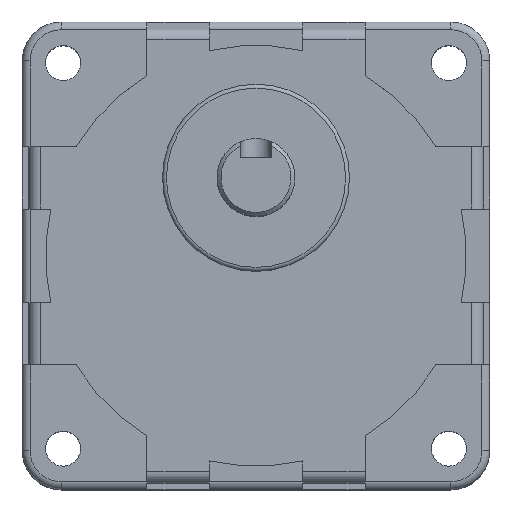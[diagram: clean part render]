
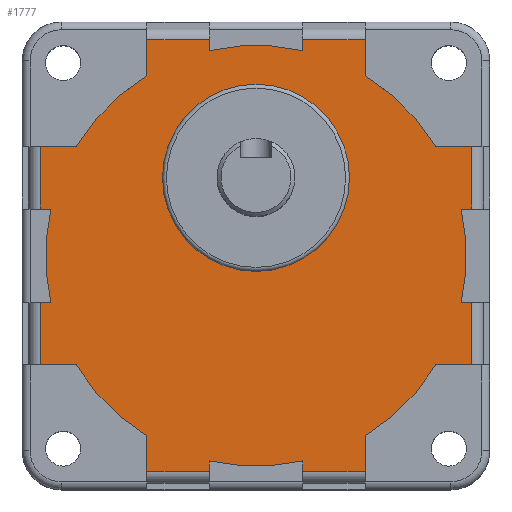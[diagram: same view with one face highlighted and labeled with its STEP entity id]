
A CAD part, top view. The second image highlights one B-rep face of the part: STEP entity #1777.
In plain terms, the highlighted planar face has unit normal (0, 0, 1).
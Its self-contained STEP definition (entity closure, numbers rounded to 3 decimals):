
#29=LINE('',#2660,#201);
#33=LINE('',#2672,#205);
#35=LINE('',#2678,#207);
#36=LINE('',#2682,#208);
#37=LINE('',#2684,#209);
#38=LINE('',#2686,#210);
#39=LINE('',#2690,#211);
#40=LINE('',#2692,#212);
#41=LINE('',#2694,#213);
#42=LINE('',#2698,#214);
#43=LINE('',#2700,#215);
#44=LINE('',#2702,#216);
#45=LINE('',#2706,#217);
#46=LINE('',#2708,#218);
#47=LINE('',#2710,#219);
#48=LINE('',#2714,#220);
#49=LINE('',#2716,#221);
#50=LINE('',#2718,#222);
#51=LINE('',#2722,#223);
#52=LINE('',#2724,#224);
#53=LINE('',#2726,#225);
#54=LINE('',#2729,#226);
#55=LINE('',#2731,#227);
#56=LINE('',#2734,#228);
#201=VECTOR('',#2113,8.);
#205=VECTOR('',#2123,8.);
#207=VECTOR('',#2129,4.613);
#208=VECTOR('',#2132,4.613);
#209=VECTOR('',#2133,8.);
#210=VECTOR('',#2134,1.375);
#211=VECTOR('',#2137,1.375);
#212=VECTOR('',#2138,8.);
#213=VECTOR('',#2139,4.613);
#214=VECTOR('',#2142,4.613);
#215=VECTOR('',#2143,8.);
#216=VECTOR('',#2144,1.375);
#217=VECTOR('',#2147,1.375);
#218=VECTOR('',#2148,8.);
#219=VECTOR('',#2149,4.613);
#220=VECTOR('',#2152,4.613);
#221=VECTOR('',#2153,8.);
#222=VECTOR('',#2154,1.375);
#223=VECTOR('',#2157,1.375);
#224=VECTOR('',#2158,8.);
#225=VECTOR('',#2159,4.613);
#226=VECTOR('',#2162,4.613);
#227=VECTOR('',#2163,1.375);
#228=VECTOR('',#2166,1.375);
#412=PLANE('',#1898);
#471=FACE_BOUND('',#606,.T.);
#494=FACE_OUTER_BOUND('',#605,.T.);
#605=EDGE_LOOP('',(#1274,#1275,#1276,#1277,#1278,#1279,#1280,#1281,#1282,
#1283,#1284,#1285,#1286,#1287,#1288,#1289,#1290,#1291,#1292,#1293,#1294,
#1295,#1296,#1297,#1298,#1299,#1300,#1301,#1302,#1303,#1304,#1305));
#606=EDGE_LOOP('',(#1306));
#727=CIRCLE('',#1899,27.);
#728=CIRCLE('',#1900,27.);
#729=CIRCLE('',#1901,27.);
#730=CIRCLE('',#1902,27.);
#731=CIRCLE('',#1903,27.);
#732=CIRCLE('',#1904,27.);
#733=CIRCLE('',#1905,27.);
#734=CIRCLE('',#1906,27.);
#735=CIRCLE('',#1907,12.);
#814=VERTEX_POINT('',#2653);
#817=VERTEX_POINT('',#2658);
#821=VERTEX_POINT('',#2669);
#822=VERTEX_POINT('',#2671);
#824=VERTEX_POINT('',#2677);
#825=VERTEX_POINT('',#2679);
#826=VERTEX_POINT('',#2681);
#827=VERTEX_POINT('',#2683);
#828=VERTEX_POINT('',#2685);
#829=VERTEX_POINT('',#2687);
#830=VERTEX_POINT('',#2689);
#831=VERTEX_POINT('',#2691);
#832=VERTEX_POINT('',#2693);
#833=VERTEX_POINT('',#2695);
#834=VERTEX_POINT('',#2697);
#835=VERTEX_POINT('',#2699);
#836=VERTEX_POINT('',#2701);
#837=VERTEX_POINT('',#2703);
#838=VERTEX_POINT('',#2705);
#839=VERTEX_POINT('',#2707);
#840=VERTEX_POINT('',#2709);
#841=VERTEX_POINT('',#2711);
#842=VERTEX_POINT('',#2713);
#843=VERTEX_POINT('',#2715);
#844=VERTEX_POINT('',#2717);
#845=VERTEX_POINT('',#2719);
#846=VERTEX_POINT('',#2721);
#847=VERTEX_POINT('',#2723);
#848=VERTEX_POINT('',#2725);
#849=VERTEX_POINT('',#2727);
#850=VERTEX_POINT('',#2730);
#851=VERTEX_POINT('',#2732);
#852=VERTEX_POINT('',#2735);
#996=EDGE_CURVE('',#817,#814,#29,.T.);
#1001=EDGE_CURVE('',#821,#822,#33,.T.);
#1004=EDGE_CURVE('',#817,#824,#35,.T.);
#1005=EDGE_CURVE('',#825,#824,#727,.T.);
#1006=EDGE_CURVE('',#826,#825,#36,.T.);
#1007=EDGE_CURVE('',#827,#826,#37,.T.);
#1008=EDGE_CURVE('',#828,#827,#38,.T.);
#1009=EDGE_CURVE('',#829,#828,#728,.T.);
#1010=EDGE_CURVE('',#829,#830,#39,.T.);
#1011=EDGE_CURVE('',#831,#830,#40,.T.);
#1012=EDGE_CURVE('',#831,#832,#41,.T.);
#1013=EDGE_CURVE('',#833,#832,#729,.T.);
#1014=EDGE_CURVE('',#834,#833,#42,.T.);
#1015=EDGE_CURVE('',#835,#834,#43,.T.);
#1016=EDGE_CURVE('',#836,#835,#44,.T.);
#1017=EDGE_CURVE('',#837,#836,#730,.T.);
#1018=EDGE_CURVE('',#837,#838,#45,.T.);
#1019=EDGE_CURVE('',#839,#838,#46,.T.);
#1020=EDGE_CURVE('',#839,#840,#47,.T.);
#1021=EDGE_CURVE('',#841,#840,#731,.T.);
#1022=EDGE_CURVE('',#842,#841,#48,.T.);
#1023=EDGE_CURVE('',#843,#842,#49,.T.);
#1024=EDGE_CURVE('',#844,#843,#50,.T.);
#1025=EDGE_CURVE('',#845,#844,#732,.T.);
#1026=EDGE_CURVE('',#845,#846,#51,.T.);
#1027=EDGE_CURVE('',#847,#846,#52,.T.);
#1028=EDGE_CURVE('',#847,#848,#53,.T.);
#1029=EDGE_CURVE('',#849,#848,#733,.T.);
#1030=EDGE_CURVE('',#822,#849,#54,.T.);
#1031=EDGE_CURVE('',#850,#821,#55,.T.);
#1032=EDGE_CURVE('',#851,#850,#734,.T.);
#1033=EDGE_CURVE('',#851,#814,#56,.T.);
#1034=EDGE_CURVE('',#852,#852,#735,.T.);
#1274=ORIENTED_EDGE('',*,*,#996,.F.);
#1275=ORIENTED_EDGE('',*,*,#1004,.T.);
#1276=ORIENTED_EDGE('',*,*,#1005,.F.);
#1277=ORIENTED_EDGE('',*,*,#1006,.F.);
#1278=ORIENTED_EDGE('',*,*,#1007,.F.);
#1279=ORIENTED_EDGE('',*,*,#1008,.F.);
#1280=ORIENTED_EDGE('',*,*,#1009,.F.);
#1281=ORIENTED_EDGE('',*,*,#1010,.T.);
#1282=ORIENTED_EDGE('',*,*,#1011,.F.);
#1283=ORIENTED_EDGE('',*,*,#1012,.T.);
#1284=ORIENTED_EDGE('',*,*,#1013,.F.);
#1285=ORIENTED_EDGE('',*,*,#1014,.F.);
#1286=ORIENTED_EDGE('',*,*,#1015,.F.);
#1287=ORIENTED_EDGE('',*,*,#1016,.F.);
#1288=ORIENTED_EDGE('',*,*,#1017,.F.);
#1289=ORIENTED_EDGE('',*,*,#1018,.T.);
#1290=ORIENTED_EDGE('',*,*,#1019,.F.);
#1291=ORIENTED_EDGE('',*,*,#1020,.T.);
#1292=ORIENTED_EDGE('',*,*,#1021,.F.);
#1293=ORIENTED_EDGE('',*,*,#1022,.F.);
#1294=ORIENTED_EDGE('',*,*,#1023,.F.);
#1295=ORIENTED_EDGE('',*,*,#1024,.F.);
#1296=ORIENTED_EDGE('',*,*,#1025,.F.);
#1297=ORIENTED_EDGE('',*,*,#1026,.T.);
#1298=ORIENTED_EDGE('',*,*,#1027,.F.);
#1299=ORIENTED_EDGE('',*,*,#1028,.T.);
#1300=ORIENTED_EDGE('',*,*,#1029,.F.);
#1301=ORIENTED_EDGE('',*,*,#1030,.F.);
#1302=ORIENTED_EDGE('',*,*,#1001,.F.);
#1303=ORIENTED_EDGE('',*,*,#1031,.F.);
#1304=ORIENTED_EDGE('',*,*,#1032,.F.);
#1305=ORIENTED_EDGE('',*,*,#1033,.T.);
#1306=ORIENTED_EDGE('',*,*,#1034,.T.);
#1777=ADVANCED_FACE('',(#494,#471),#412,.T.);
#1898=AXIS2_PLACEMENT_3D('',#2676,#2127,#2128);
#1899=AXIS2_PLACEMENT_3D('',#2680,#2130,#2131);
#1900=AXIS2_PLACEMENT_3D('',#2688,#2135,#2136);
#1901=AXIS2_PLACEMENT_3D('',#2696,#2140,#2141);
#1902=AXIS2_PLACEMENT_3D('',#2704,#2145,#2146);
#1903=AXIS2_PLACEMENT_3D('',#2712,#2150,#2151);
#1904=AXIS2_PLACEMENT_3D('',#2720,#2155,#2156);
#1905=AXIS2_PLACEMENT_3D('',#2728,#2160,#2161);
#1906=AXIS2_PLACEMENT_3D('',#2733,#2164,#2165);
#1907=AXIS2_PLACEMENT_3D('',#2736,#2167,#2168);
#2113=DIRECTION('',(0.,-1.,0.));
#2123=DIRECTION('',(0.,-1.,0.));
#2127=DIRECTION('center_axis',(0.,0.,1.));
#2128=DIRECTION('ref_axis',(1.,0.,0.));
#2129=DIRECTION('',(-1.,0.,0.));
#2130=DIRECTION('center_axis',(0.,0.,-1.));
#2131=DIRECTION('ref_axis',(-1.,0.,0.));
#2132=DIRECTION('',(0.,-1.,0.));
#2133=DIRECTION('',(1.,0.,0.));
#2134=DIRECTION('',(0.,1.,0.));
#2135=DIRECTION('center_axis',(0.,0.,-1.));
#2136=DIRECTION('ref_axis',(-1.,0.,0.));
#2137=DIRECTION('',(0.,1.,0.));
#2138=DIRECTION('',(1.,0.,0.));
#2139=DIRECTION('',(0.,-1.,0.));
#2140=DIRECTION('center_axis',(0.,0.,-1.));
#2141=DIRECTION('ref_axis',(-1.,0.,0.));
#2142=DIRECTION('',(1.,0.,0.));
#2143=DIRECTION('',(0.,1.,0.));
#2144=DIRECTION('',(-1.,0.,0.));
#2145=DIRECTION('center_axis',(0.,0.,-1.));
#2146=DIRECTION('ref_axis',(-1.,0.,0.));
#2147=DIRECTION('',(-1.,0.,0.));
#2148=DIRECTION('',(0.,1.,0.));
#2149=DIRECTION('',(1.,0.,0.));
#2150=DIRECTION('center_axis',(0.,0.,-1.));
#2151=DIRECTION('ref_axis',(-1.,0.,0.));
#2152=DIRECTION('',(0.,1.,0.));
#2153=DIRECTION('',(-1.,0.,0.));
#2154=DIRECTION('',(0.,-1.,0.));
#2155=DIRECTION('center_axis',(0.,0.,-1.));
#2156=DIRECTION('ref_axis',(-1.,0.,0.));
#2157=DIRECTION('',(0.,-1.,0.));
#2158=DIRECTION('',(-1.,0.,0.));
#2159=DIRECTION('',(0.,1.,0.));
#2160=DIRECTION('center_axis',(0.,0.,-1.));
#2161=DIRECTION('ref_axis',(-1.,0.,0.));
#2162=DIRECTION('',(-1.,0.,0.));
#2163=DIRECTION('',(1.,0.,0.));
#2164=DIRECTION('center_axis',(0.,0.,-1.));
#2165=DIRECTION('ref_axis',(-1.,0.,0.));
#2166=DIRECTION('',(1.,0.,0.));
#2167=DIRECTION('center_axis',(0.,0.,-1.));
#2168=DIRECTION('ref_axis',(1.,0.,0.));
#2653=CARTESIAN_POINT('',(27.7,6.,33.2));
#2658=CARTESIAN_POINT('',(27.7,14.,33.2));
#2660=CARTESIAN_POINT('',(27.7,7.,33.2));
#2669=CARTESIAN_POINT('',(27.7,-6.,33.2));
#2671=CARTESIAN_POINT('',(27.7,-14.,33.2));
#2672=CARTESIAN_POINT('',(27.7,-7.,33.2));
#2676=CARTESIAN_POINT('Origin',(0.,0.,33.2));
#2677=CARTESIAN_POINT('',(23.087,14.,33.2));
#2678=CARTESIAN_POINT('',(23.087,14.,33.2));
#2679=CARTESIAN_POINT('',(14.,23.087,33.2));
#2680=CARTESIAN_POINT('Origin',(0.,0.,33.2));
#2681=CARTESIAN_POINT('',(14.,27.7,33.2));
#2682=CARTESIAN_POINT('',(14.,23.087,33.2));
#2683=CARTESIAN_POINT('',(6.,27.7,33.2));
#2684=CARTESIAN_POINT('',(7.,27.7,33.2));
#2685=CARTESIAN_POINT('',(6.,26.325,33.2));
#2686=CARTESIAN_POINT('',(6.,30.,33.2));
#2687=CARTESIAN_POINT('',(-6.,26.325,33.2));
#2688=CARTESIAN_POINT('Origin',(0.,0.,33.2));
#2689=CARTESIAN_POINT('',(-6.,27.7,33.2));
#2690=CARTESIAN_POINT('',(-6.,30.,33.2));
#2691=CARTESIAN_POINT('',(-14.,27.7,33.2));
#2692=CARTESIAN_POINT('',(-7.,27.7,33.2));
#2693=CARTESIAN_POINT('',(-14.,23.087,33.2));
#2694=CARTESIAN_POINT('',(-14.,23.087,33.2));
#2695=CARTESIAN_POINT('',(-23.087,14.,33.2));
#2696=CARTESIAN_POINT('Origin',(0.,0.,33.2));
#2697=CARTESIAN_POINT('',(-27.7,14.,33.2));
#2698=CARTESIAN_POINT('',(-23.087,14.,33.2));
#2699=CARTESIAN_POINT('',(-27.7,6.,33.2));
#2700=CARTESIAN_POINT('',(-27.7,7.,33.2));
#2701=CARTESIAN_POINT('',(-26.325,6.,33.2));
#2702=CARTESIAN_POINT('',(-30.,6.,33.2));
#2703=CARTESIAN_POINT('',(-26.325,-6.,33.2));
#2704=CARTESIAN_POINT('Origin',(0.,0.,33.2));
#2705=CARTESIAN_POINT('',(-27.7,-6.,33.2));
#2706=CARTESIAN_POINT('',(-30.,-6.,33.2));
#2707=CARTESIAN_POINT('',(-27.7,-14.,33.2));
#2708=CARTESIAN_POINT('',(-27.7,-7.,33.2));
#2709=CARTESIAN_POINT('',(-23.087,-14.,33.2));
#2710=CARTESIAN_POINT('',(-23.087,-14.,33.2));
#2711=CARTESIAN_POINT('',(-14.,-23.087,33.2));
#2712=CARTESIAN_POINT('Origin',(0.,0.,33.2));
#2713=CARTESIAN_POINT('',(-14.,-27.7,33.2));
#2714=CARTESIAN_POINT('',(-14.,-23.087,33.2));
#2715=CARTESIAN_POINT('',(-6.,-27.7,33.2));
#2716=CARTESIAN_POINT('',(-7.,-27.7,33.2));
#2717=CARTESIAN_POINT('',(-6.,-26.325,33.2));
#2718=CARTESIAN_POINT('',(-6.,-30.,33.2));
#2719=CARTESIAN_POINT('',(6.,-26.325,33.2));
#2720=CARTESIAN_POINT('Origin',(0.,0.,33.2));
#2721=CARTESIAN_POINT('',(6.,-27.7,33.2));
#2722=CARTESIAN_POINT('',(6.,-30.,33.2));
#2723=CARTESIAN_POINT('',(14.,-27.7,33.2));
#2724=CARTESIAN_POINT('',(7.,-27.7,33.2));
#2725=CARTESIAN_POINT('',(14.,-23.087,33.2));
#2726=CARTESIAN_POINT('',(14.,-23.087,33.2));
#2727=CARTESIAN_POINT('',(23.087,-14.,33.2));
#2728=CARTESIAN_POINT('Origin',(0.,0.,33.2));
#2729=CARTESIAN_POINT('',(23.087,-14.,33.2));
#2730=CARTESIAN_POINT('',(26.325,-6.,33.2));
#2731=CARTESIAN_POINT('',(30.,-6.,33.2));
#2732=CARTESIAN_POINT('',(26.325,6.,33.2));
#2733=CARTESIAN_POINT('Origin',(0.,0.,33.2));
#2734=CARTESIAN_POINT('',(30.,6.,33.2));
#2735=CARTESIAN_POINT('',(-12.,10.,33.2));
#2736=CARTESIAN_POINT('Origin',(0.,10.,33.2));
